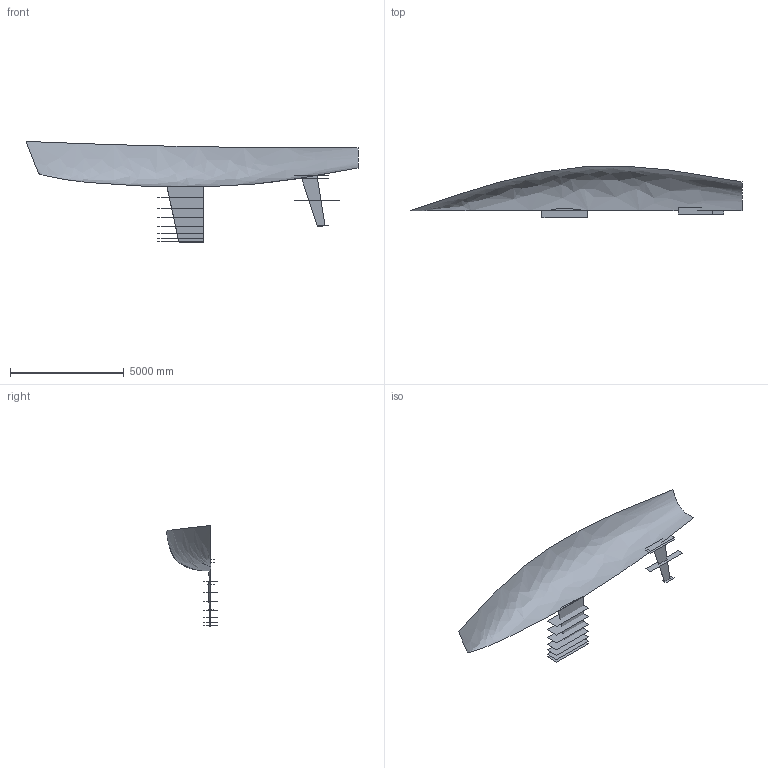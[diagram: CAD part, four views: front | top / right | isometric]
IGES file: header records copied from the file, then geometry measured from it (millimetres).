
Start section: DATA transfer to IGES file format           James R Teeters           17 Goodwin Street           Newport, RI 02840 DATA transfer to IGES file format           James R Teeters           17 Goodwin Street           Newport, RI 02840 DATA transfer to IGES file format           James R Teeters           17 Goodwin Street           Newport, RI 02840
Global section: file name: C:\Users\Uli\Documents\Teeters USSAILING\Design\USSAM5 w Appendages 3D Model.igs; native system: Rhinoceros ( May 22 2017 ); preprocessor: Trout Lake IGES 012 May 22 2017; date: 251227.221606; units: metre
Bounding box: 14612.59 x 2251.18 x 4452.67 mm (x, y, z)
Surface area: 54791935.4 mm2 (no closed solid volume)
Topology: 0 solids, 0 shells, 23 faces, 256 edges, 574 vertices
Faces by surface type: bspline 23
